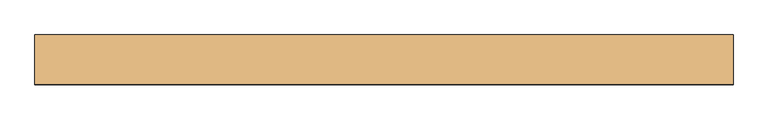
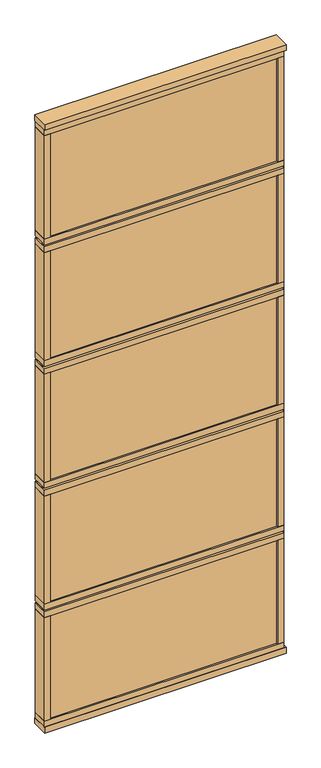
"""IFC4 building model written with IfcOpenShell, lengths in millimetres: door geometry, Mobiliário_Mobiliário de Escritório_Painel de Vidro Duplo - AV5T (Complementar)_Marelli : AU5T - Temperado."""

from ifc_helpers import new_model, si_unit, frame, origin, origin_with_axes, place, context, project, spatial, polyline, outline, extrude, source, transform, mapped, element, save


def door_31013af6(model_context):
    return source(origin(), model_context, "Body", "SweptSolid", [
        extrude(outline(polyline([(600.0, 42.5), (600.0, -42.5), (-600.0, -42.5), (-600.0, 42.5), (600.0, 42.5)])), origin_with_axes(), (0.0, 0.0, 1.0), 30.0),
        extrude(outline(polyline([(590.0, 21.5), (590.0, -21.5), (-600.0, -21.5), (-600.0, 21.5), (590.0, 21.5)])), frame((0.0, 0.0, 2555.0), z_axis=(0.0, 0.0, 1.0), x_axis=(1.0, 0.0, 0.0)), (0.0, 0.0, 1.0), 10.0),
        extrude(outline(polyline([(590.0, 39.5), (590.0, -39.5), (-600.0, -39.5), (-600.0, 39.5), (590.0, 39.5)])), frame((0.0, 0.0, 2565.0), z_axis=(0.0, 0.0, 1.0), x_axis=(1.0, 0.0, 0.0)), (0.0, 0.0, 1.0), 30.0),
        extrude(outline(polyline([(-570.0, 39.5), (-570.0, -39.5), (-600.0, -39.5), (-600.0, 39.5), (-570.0, 39.5)])), frame((0.0, 0.0, 2595.0), z_axis=(0.0, 0.0, 1.0), x_axis=(1.0, 0.0, 0.0)), (0.0, 0.0, 1.0), 545.0),
        extrude(outline(polyline([(560.0, 39.5), (590.0, 39.5), (590.0, -39.5), (560.0, -39.5), (560.0, 39.5)])), frame((0.0, 0.0, 2595.0), z_axis=(0.0, 0.0, 1.0), x_axis=(1.0, 0.0, 0.0)), (0.0, 0.0, 1.0), 545.0),
        extrude(outline(polyline([(560.0, -25.5), (560.0, -31.5), (-570.0, -31.5), (-570.0, -25.5), (560.0, -25.5)])), frame((0.0, 0.0, 2595.0), z_axis=(0.0, 0.0, 1.0), x_axis=(1.0, 0.0, 0.0)), (0.0, 0.0, 1.0), 545.0),
        extrude(outline(polyline([(590.0, 39.5), (590.0, -39.5), (-600.0, -39.5), (-600.0, 39.5), (590.0, 39.5)])), frame((0.0, 0.0, 2525.0), z_axis=(0.0, 0.0, 1.0), x_axis=(1.0, 0.0, 0.0)), (0.0, 0.0, 1.0), 30.0),
        extrude(outline(polyline([(590.0, 39.5), (590.0, -39.5), (-600.0, -39.5), (-600.0, 39.5), (590.0, 39.5)])), frame((0.0, 0.0, 1925.0), z_axis=(0.0, 0.0, 1.0), x_axis=(1.0, 0.0, 0.0)), (0.0, 0.0, 1.0), 30.0),
        extrude(outline(polyline([(590.0, 21.5), (590.0, -21.5), (-600.0, -21.5), (-600.0, 21.5), (590.0, 21.5)])), frame((0.0, 0.0, 1915.0), z_axis=(0.0, 0.0, 1.0), x_axis=(1.0, 0.0, 0.0)), (0.0, 0.0, 1.0), 10.0),
        extrude(outline(polyline([(590.0, 21.5), (590.0, -21.5), (-600.0, -21.5), (-600.0, 21.5), (590.0, 21.5)])), frame((0.0, 0.0, 1275.0), z_axis=(0.0, 0.0, 1.0), x_axis=(1.0, 0.0, 0.0)), (0.0, 0.0, 1.0), 10.0),
        extrude(outline(polyline([(590.0, 21.5), (590.0, -21.5), (-600.0, -21.5), (-600.0, 21.5), (590.0, 21.5)])), frame((0.0, 0.0, 635.0), z_axis=(0.0, 0.0, 1.0), x_axis=(1.0, 0.0, 0.0)), (0.0, 0.0, 1.0), 10.0),
        extrude(outline(polyline([(590.0, 39.5), (590.0, -39.5), (-600.0, -39.5), (-600.0, 39.5), (590.0, 39.5)])), frame((0.0, 0.0, 1285.0), z_axis=(0.0, 0.0, 1.0), x_axis=(1.0, 0.0, 0.0)), (0.0, 0.0, 1.0), 30.0),
        extrude(outline(polyline([(-570.0, 39.5), (-570.0, -39.5), (-600.0, -39.5), (-600.0, 39.5), (-570.0, 39.5)])), frame((0.0, 0.0, 1315.0), z_axis=(0.0, 0.0, 1.0), x_axis=(1.0, 0.0, 0.0)), (0.0, 0.0, 1.0), 570.0),
        extrude(outline(polyline([(560.0, 39.5), (590.0, 39.5), (590.0, -39.5), (560.0, -39.5), (560.0, 39.5)])), frame((0.0, 0.0, 1315.0), z_axis=(0.0, 0.0, 1.0), x_axis=(1.0, 0.0, 0.0)), (0.0, 0.0, 1.0), 570.0),
        extrude(outline(polyline([(590.0, 39.5), (590.0, -39.5), (-600.0, -39.5), (-600.0, 39.5), (590.0, 39.5)])), frame((0.0, 0.0, 1885.0), z_axis=(0.0, 0.0, 1.0), x_axis=(1.0, 0.0, 0.0)), (0.0, 0.0, 1.0), 30.0),
        extrude(outline(polyline([(590.0, 39.5), (590.0, -39.5), (-600.0, -39.5), (-600.0, 39.5), (590.0, 39.5)])), frame((0.0, 0.0, 1245.0), z_axis=(0.0, 0.0, 1.0), x_axis=(1.0, 0.0, 0.0)), (0.0, 0.0, 1.0), 30.0),
        extrude(outline(polyline([(590.0, 39.5), (590.0, -39.5), (-600.0, -39.5), (-600.0, 39.5), (590.0, 39.5)])), frame((0.0, 0.0, 645.0), z_axis=(0.0, 0.0, 1.0), x_axis=(1.0, 0.0, 0.0)), (0.0, 0.0, 1.0), 30.0),
        extrude(outline(polyline([(-570.0, 39.5), (-570.0, -39.5), (-600.0, -39.5), (-600.0, 39.5), (-570.0, 39.5)])), frame((0.0, 0.0, 60.0), z_axis=(0.0, 0.0, 1.0), x_axis=(1.0, 0.0, 0.0)), (0.0, 0.0, 1.0), 545.0),
        extrude(outline(polyline([(560.0, 39.5), (590.0, 39.5), (590.0, -39.5), (560.0, -39.5), (560.0, 39.5)])), frame((0.0, 0.0, 60.0), z_axis=(0.0, 0.0, 1.0), x_axis=(1.0, 0.0, 0.0)), (0.0, 0.0, 1.0), 545.0),
        extrude(outline(polyline([(590.0, 39.5), (590.0, -39.5), (-600.0, -39.5), (-600.0, 39.5), (590.0, 39.5)])), frame((0.0, 0.0, 605.0), z_axis=(0.0, 0.0, 1.0), x_axis=(1.0, 0.0, 0.0)), (0.0, 0.0, 1.0), 30.0),
        extrude(outline(polyline([(590.0, 39.5), (590.0, -39.5), (-600.0, -39.5), (-600.0, 39.5), (590.0, 39.5)])), frame((0.0, 0.0, 30.0), z_axis=(0.0, 0.0, 1.0), x_axis=(1.0, 0.0, 0.0)), (0.0, 0.0, 1.0), 30.0),
        extrude(outline(polyline([(560.0, -25.5), (560.0, -31.5), (-570.0, -31.5), (-570.0, -25.5), (560.0, -25.5)])), frame((0.0, 0.0, 1315.0), z_axis=(0.0, 0.0, 1.0), x_axis=(1.0, 0.0, 0.0)), (0.0, 0.0, 1.0), 570.0),
        extrude(outline(polyline([(560.0, -25.5), (560.0, -31.5), (-570.0, -31.5), (-570.0, -25.5), (560.0, -25.5)])), frame((0.0, 0.0, 60.0), z_axis=(0.0, 0.0, 1.0), x_axis=(1.0, 0.0, 0.0)), (0.0, 0.0, 1.0), 545.0),
        extrude(outline(polyline([(560.0, 31.5), (560.0, 25.5), (-570.0, 25.5), (-570.0, 31.5), (560.0, 31.5)])), frame((0.0, 0.0, 2595.0), z_axis=(0.0, 0.0, 1.0), x_axis=(1.0, 0.0, 0.0)), (0.0, 0.0, 1.0), 545.0),
        extrude(outline(polyline([(560.0, 31.5), (560.0, 25.5), (-570.0, 25.5), (-570.0, 31.5), (560.0, 31.5)])), frame((0.0, 0.0, 1315.0), z_axis=(0.0, 0.0, 1.0), x_axis=(1.0, 0.0, 0.0)), (0.0, 0.0, 1.0), 570.0),
        extrude(outline(polyline([(560.0, 31.5), (560.0, 25.5), (-570.0, 25.5), (-570.0, 31.5), (560.0, 31.5)])), frame((0.0, 0.0, 60.0), z_axis=(0.0, 0.0, 1.0), x_axis=(1.0, 0.0, 0.0)), (0.0, 0.0, 1.0), 545.0),
        extrude(outline(polyline([(600.0, 42.5), (600.0, -42.5), (-600.0, -42.5), (-600.0, 42.5), (600.0, 42.5)])), frame((0.0, 0.0, 3170.0), z_axis=(0.0, 0.0, 1.0), x_axis=(1.0, 0.0, 0.0)), (0.0, 0.0, 1.0), 30.0),
        extrude(outline(polyline([(590.0, 39.5), (590.0, -39.5), (-600.0, -39.5), (-600.0, 39.5), (590.0, 39.5)])), frame((0.0, 0.0, 3140.0), z_axis=(0.0, 0.0, 1.0), x_axis=(1.0, 0.0, 0.0)), (0.0, 0.0, 1.0), 30.0),
        extrude(outline(polyline([(590.0, 21.5), (600.0, 21.5), (600.0, -21.5), (590.0, -21.5), (590.0, 21.5)])), frame((0.0, 0.0, 30.0), z_axis=(0.0, 0.0, 1.0), x_axis=(1.0, 0.0, 0.0)), (0.0, 0.0, 1.0), 3140.0),
        extrude(outline(polyline([(-570.0, 39.5), (-570.0, -39.5), (-600.0, -39.5), (-600.0, 39.5), (-570.0, 39.5)])), frame((0.0, 0.0, 1955.0), z_axis=(0.0, 0.0, 1.0), x_axis=(1.0, 0.0, 0.0)), (0.0, 0.0, 1.0), 570.0),
        extrude(outline(polyline([(560.0, 39.5), (590.0, 39.5), (590.0, -39.5), (560.0, -39.5), (560.0, 39.5)])), frame((0.0, 0.0, 1955.0), z_axis=(0.0, 0.0, 1.0), x_axis=(1.0, 0.0, 0.0)), (0.0, 0.0, 1.0), 570.0),
        extrude(outline(polyline([(560.0, -25.5), (560.0, -31.5), (-570.0, -31.5), (-570.0, -25.5), (560.0, -25.5)])), frame((0.0, 0.0, 1955.0), z_axis=(0.0, 0.0, 1.0), x_axis=(1.0, 0.0, 0.0)), (0.0, 0.0, 1.0), 570.0),
        extrude(outline(polyline([(560.0, 31.5), (560.0, 25.5), (-570.0, 25.5), (-570.0, 31.5), (560.0, 31.5)])), frame((0.0, 0.0, 1955.0), z_axis=(0.0, 0.0, 1.0), x_axis=(1.0, 0.0, 0.0)), (0.0, 0.0, 1.0), 570.0),
        extrude(outline(polyline([(-570.0, 39.5), (-570.0, -39.5), (-600.0, -39.5), (-600.0, 39.5), (-570.0, 39.5)])), frame((0.0, 0.0, 675.0), z_axis=(0.0, 0.0, 1.0), x_axis=(1.0, 0.0, 0.0)), (0.0, 0.0, 1.0), 570.0),
        extrude(outline(polyline([(560.0, 39.5), (590.0, 39.5), (590.0, -39.5), (560.0, -39.5), (560.0, 39.5)])), frame((0.0, 0.0, 675.0), z_axis=(0.0, 0.0, 1.0), x_axis=(1.0, 0.0, 0.0)), (0.0, 0.0, 1.0), 570.0),
        extrude(outline(polyline([(560.0, -25.5), (560.0, -31.5), (-570.0, -31.5), (-570.0, -25.5), (560.0, -25.5)])), frame((0.0, 0.0, 675.0), z_axis=(0.0, 0.0, 1.0), x_axis=(1.0, 0.0, 0.0)), (0.0, 0.0, 1.0), 570.0),
        extrude(outline(polyline([(560.0, 31.5), (560.0, 25.5), (-570.0, 25.5), (-570.0, 31.5), (560.0, 31.5)])), frame((0.0, 0.0, 675.0), z_axis=(0.0, 0.0, 1.0), x_axis=(1.0, 0.0, 0.0)), (0.0, 0.0, 1.0), 570.0),
    ])


if __name__ == "__main__":
    model = new_model("IFC4")
    model_context = context("Model", 3, world=origin())
    ifc_project = project(units=[si_unit("LENGTHUNIT", "METRE", prefix="MILLI")], contexts=[model_context])
    site = spatial("IfcSite", under=ifc_project)
    building = spatial("IfcBuilding", under=site)
    placement = place(None, origin())
    door_shape = door_31013af6(model_context)
    element("IfcDoor", 1, ObjectType="Mobiliário_Mobiliário de Escritório_Painel de Vidro Duplo - AV5T (Complementar)_Marelli : AU5T - Temperado", at=placement, inside=building, context=model_context, shape_type="MappedRepresentation", body=[
        mapped(door_shape, transform((0.0, 0.0, 0.0), x_axis=(1.0, 0.0, 0.0), y_axis=(0.0, 1.0, 0.0), z_axis=(0.0, 0.0, 1.0))),
    ])
    save(model, "model.ifc")
